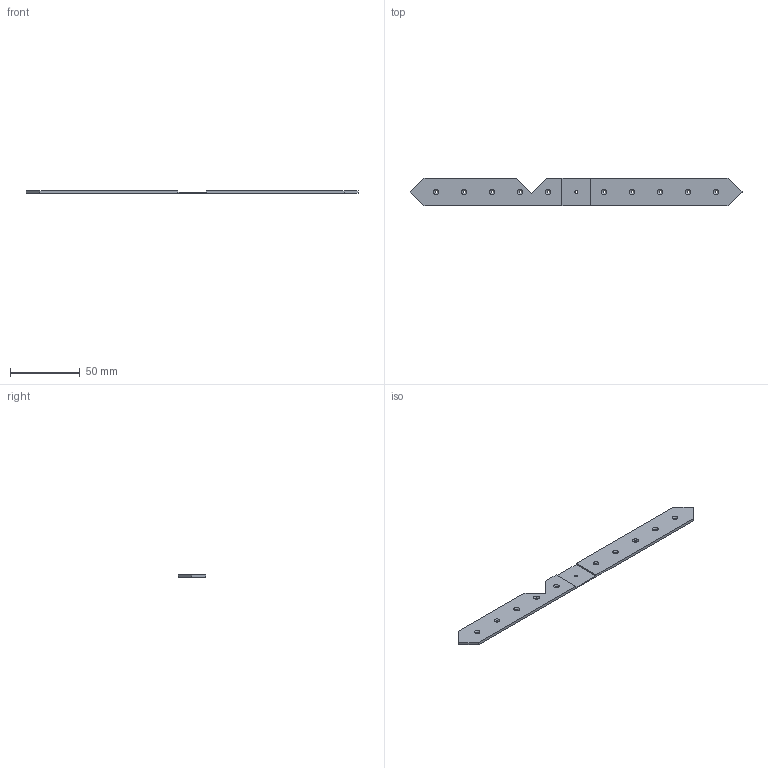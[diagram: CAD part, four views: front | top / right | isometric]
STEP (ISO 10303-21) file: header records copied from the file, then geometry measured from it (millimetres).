
FILE_DESCRIPTION (( 'STEP AP214' ), '1' );
FILE_NAME ('SC39_2.STEP', '2016-02-27T08:10:51', ( '' ), ( '' ), 'SwSTEP 2.0', 'SolidWorks 2012', '' );
FILE_SCHEMA (( 'AUTOMOTIVE_DESIGN' ));
Length unit declared in the file: millimetre
Products named in the file (1): SC39_2
Bounding box: 237.21 x 20 x 2 mm (x, y, z)
Volume: 8312.9 mm3; surface area: 9868.2 mm2
Topology: 1 solids, 1 shells, 79 faces, 189 edges, 112 vertices
Faces by surface type: cone 42, cylinder 22, plane 15
Entity records: 2351 total; most frequent: DIRECTION 435, CARTESIAN_POINT 381, ORIENTED_EDGE 378, EDGE_CURVE 189, AXIS2_PLACEMENT_3D 166, VERTEX_POINT 112, LINE 103, VECTOR 103
